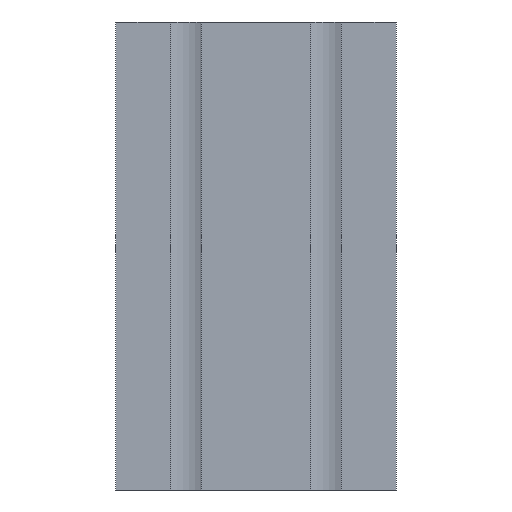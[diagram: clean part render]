
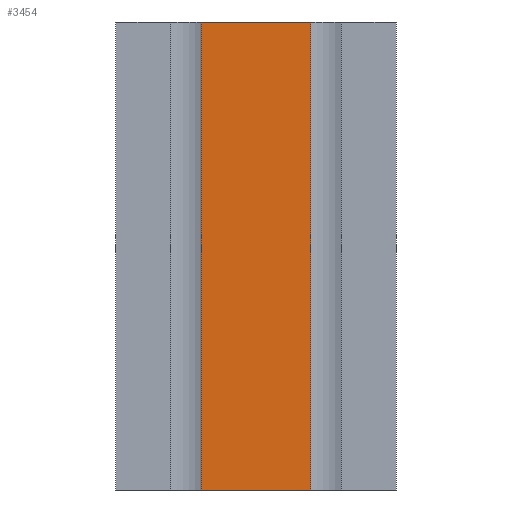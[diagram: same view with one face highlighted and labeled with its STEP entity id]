
A CAD part, front view. The second image highlights one B-rep face of the part: STEP entity #3454.
In plain terms, the highlighted planar face has unit normal (0, -1, 0).
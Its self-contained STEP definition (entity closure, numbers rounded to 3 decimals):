
#424 = ORIENTED_EDGE ( 'NONE', *, *, #4134, .T. ) ;
#554 = CARTESIAN_POINT ( 'NONE',  ( 11.75, -15., -50. ) ) ;
#578 = DIRECTION ( 'NONE',  ( -1., 0., 0. ) ) ;
#620 = VECTOR ( 'NONE', #578, 1000. ) ;
#678 = EDGE_CURVE ( 'NONE', #1463, #4176, #3878, .T. ) ;
#754 = CARTESIAN_POINT ( 'NONE',  ( 11.75, -15., 50. ) ) ;
#1173 = CARTESIAN_POINT ( 'NONE',  ( -11.75, -15., -50. ) ) ;
#1246 = ORIENTED_EDGE ( 'NONE', *, *, #4422, .T. ) ;
#1271 = DIRECTION ( 'NONE',  ( 0., 0., -1. ) ) ;
#1463 = VERTEX_POINT ( 'NONE', #3737 ) ;
#1632 = LINE ( 'NONE', #2093, #5047 ) ;
#1989 = DIRECTION ( 'NONE',  ( 0., 0., 1. ) ) ;
#2031 = VECTOR ( 'NONE', #4995, 1000. ) ;
#2093 = CARTESIAN_POINT ( 'NONE',  ( -11.75, -15., -50. ) ) ;
#2267 = PLANE ( 'NONE',  #4740 ) ;
#2694 = VERTEX_POINT ( 'NONE', #4681 ) ;
#3021 = EDGE_LOOP ( 'NONE', ( #1246, #5158, #424, #4869 ) ) ;
#3454 = ADVANCED_FACE ( 'NONE', ( #6033 ), #2267, .T. ) ;
#3647 = DIRECTION ( 'NONE',  ( 0., -1., 0. ) ) ;
#3704 = EDGE_CURVE ( 'NONE', #2694, #5224, #1632, .T. ) ;
#3737 = CARTESIAN_POINT ( 'NONE',  ( 11.75, -15., -50. ) ) ;
#3878 = LINE ( 'NONE', #554, #5984 ) ;
#4134 = EDGE_CURVE ( 'NONE', #2694, #1463, #5454, .T. ) ;
#4176 = VERTEX_POINT ( 'NONE', #754 ) ;
#4178 = CARTESIAN_POINT ( 'NONE',  ( 11.75, -15., 0. ) ) ;
#4422 = EDGE_CURVE ( 'NONE', #4176, #5224, #5328, .T. ) ;
#4681 = CARTESIAN_POINT ( 'NONE',  ( -11.75, -15., -50. ) ) ;
#4740 = AXIS2_PLACEMENT_3D ( 'NONE', #4178, #3647, #1271 ) ;
#4759 = CARTESIAN_POINT ( 'NONE',  ( 11.75, -15., 50. ) ) ;
#4869 = ORIENTED_EDGE ( 'NONE', *, *, #678, .T. ) ;
#4995 = DIRECTION ( 'NONE',  ( 1., 0., 0. ) ) ;
#5047 = VECTOR ( 'NONE', #5824, 1000. ) ;
#5158 = ORIENTED_EDGE ( 'NONE', *, *, #3704, .F. ) ;
#5224 = VERTEX_POINT ( 'NONE', #5234 ) ;
#5234 = CARTESIAN_POINT ( 'NONE',  ( -11.75, -15., 50. ) ) ;
#5328 = LINE ( 'NONE', #4759, #620 ) ;
#5454 = LINE ( 'NONE', #1173, #2031 ) ;
#5824 = DIRECTION ( 'NONE',  ( 0., 0., 1. ) ) ;
#5984 = VECTOR ( 'NONE', #1989, 1000. ) ;
#6033 = FACE_OUTER_BOUND ( 'NONE', #3021, .T. ) ;
